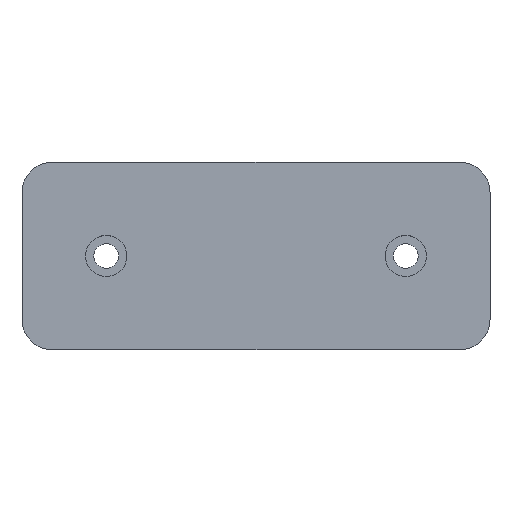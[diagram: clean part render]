
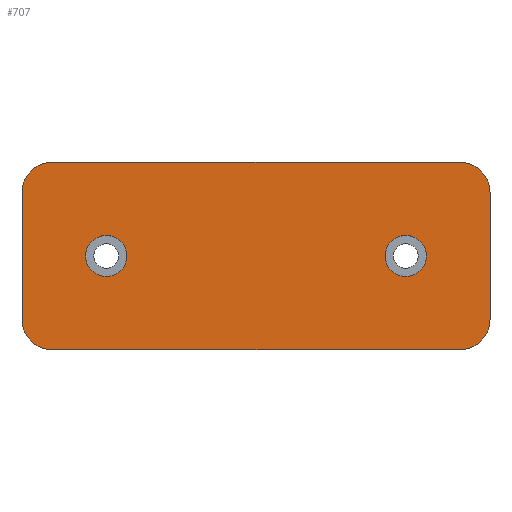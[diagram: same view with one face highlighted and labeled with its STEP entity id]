
A CAD part, top view. The second image highlights one B-rep face of the part: STEP entity #707.
In plain terms, the highlighted planar face has unit normal (0, 0, 1).
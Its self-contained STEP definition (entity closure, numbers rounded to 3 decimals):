
#10 = ORIENTED_EDGE ( 'NONE', *, *, #569, .F. ) ;
#12 = DIRECTION ( 'NONE',  ( 0., 0., 1. ) ) ;
#13 = VERTEX_POINT ( 'NONE', #605 ) ;
#15 = EDGE_CURVE ( 'NONE', #186, #703, #337, .T. ) ;
#26 = ORIENTED_EDGE ( 'NONE', *, *, #374, .T. ) ;
#34 = EDGE_LOOP ( 'NONE', ( #10, #831 ) ) ;
#59 = VECTOR ( 'NONE', #89, 1000. ) ;
#60 = VERTEX_POINT ( 'NONE', #802 ) ;
#62 = EDGE_LOOP ( 'NONE', ( #223, #95 ) ) ;
#65 = CARTESIAN_POINT ( 'NONE',  ( 54.5, 17., 12.1 ) ) ;
#70 = DIRECTION ( 'NONE',  ( 1., 0., 0. ) ) ;
#75 = EDGE_CURVE ( 'NONE', #651, #129, #438, .T. ) ;
#84 = CARTESIAN_POINT ( 'NONE',  ( -40., 0., 12.1 ) ) ;
#89 = DIRECTION ( 'NONE',  ( 0., 1., 0. ) ) ;
#90 = DIRECTION ( 'NONE',  ( 1., 0., 0. ) ) ;
#95 = ORIENTED_EDGE ( 'NONE', *, *, #484, .F. ) ;
#96 = CARTESIAN_POINT ( 'NONE',  ( 54.5, -17., 12.1 ) ) ;
#97 = ORIENTED_EDGE ( 'NONE', *, *, #621, .T. ) ;
#113 = AXIS2_PLACEMENT_3D ( 'NONE', #375, #755, #515 ) ;
#129 = VERTEX_POINT ( 'NONE', #788 ) ;
#135 = DIRECTION ( 'NONE',  ( 1., 0., 0. ) ) ;
#158 = DIRECTION ( 'NONE',  ( 0., 0., 1. ) ) ;
#166 = ORIENTED_EDGE ( 'NONE', *, *, #431, .T. ) ;
#183 = CIRCLE ( 'NONE', #279, 5.5 ) ;
#186 = VERTEX_POINT ( 'NONE', #567 ) ;
#196 = ORIENTED_EDGE ( 'NONE', *, *, #510, .T. ) ;
#213 = VECTOR ( 'NONE', #228, 1000. ) ;
#223 = ORIENTED_EDGE ( 'NONE', *, *, #15, .F. ) ;
#228 = DIRECTION ( 'NONE',  ( 1., 0., 0. ) ) ;
#232 = VERTEX_POINT ( 'NONE', #499 ) ;
#233 = AXIS2_PLACEMENT_3D ( 'NONE', #370, #504, #809 ) ;
#238 = CARTESIAN_POINT ( 'NONE',  ( 40., 0., 12.1 ) ) ;
#246 = EDGE_CURVE ( 'NONE', #13, #566, #183, .T. ) ;
#255 = VECTOR ( 'NONE', #365, 1000. ) ;
#268 = EDGE_CURVE ( 'NONE', #722, #704, #799, .T. ) ;
#272 = DIRECTION ( 'NONE',  ( 0., 0., 1. ) ) ;
#279 = AXIS2_PLACEMENT_3D ( 'NONE', #238, #489, #741 ) ;
#293 = EDGE_LOOP ( 'NONE', ( #26, #416, #196, #792, #476, #323, #97, #166 ) ) ;
#295 = CARTESIAN_POINT ( 'NONE',  ( -62.5, -17., 12.1 ) ) ;
#306 = CARTESIAN_POINT ( 'NONE',  ( 45.5, 0., 12.1 ) ) ;
#323 = ORIENTED_EDGE ( 'NONE', *, *, #75, .T. ) ;
#332 = CARTESIAN_POINT ( 'NONE',  ( 54.5, 17., 12.1 ) ) ;
#334 = FACE_BOUND ( 'NONE', #34, .T. ) ;
#335 = AXIS2_PLACEMENT_3D ( 'NONE', #84, #351, #728 ) ;
#337 = CIRCLE ( 'NONE', #335, 5.5 ) ;
#344 = CIRCLE ( 'NONE', #233, 8. ) ;
#347 = CIRCLE ( 'NONE', #668, 8. ) ;
#351 = DIRECTION ( 'NONE',  ( 0., 0., 1. ) ) ;
#357 = CARTESIAN_POINT ( 'NONE',  ( 54.5, -25., 12.1 ) ) ;
#365 = DIRECTION ( 'NONE',  ( 0., -1., 0. ) ) ;
#368 = CARTESIAN_POINT ( 'NONE',  ( 62.5, 17., 12.1 ) ) ;
#370 = CARTESIAN_POINT ( 'NONE',  ( -54.5, 17., 12.1 ) ) ;
#374 = EDGE_CURVE ( 'NONE', #458, #611, #347, .T. ) ;
#375 = CARTESIAN_POINT ( 'NONE',  ( 40., 0., 12.1 ) ) ;
#385 = AXIS2_PLACEMENT_3D ( 'NONE', #560, #680, #619 ) ;
#403 = CIRCLE ( 'NONE', #602, 8. ) ;
#409 = PLANE ( 'NONE',  #681 ) ;
#416 = ORIENTED_EDGE ( 'NONE', *, *, #528, .T. ) ;
#418 = DIRECTION ( 'NONE',  ( 0., 0., 1. ) ) ;
#419 = CARTESIAN_POINT ( 'NONE',  ( 62.5, -17., 12.1 ) ) ;
#431 = EDGE_CURVE ( 'NONE', #232, #458, #709, .T. ) ;
#438 = LINE ( 'NONE', #357, #213 ) ;
#458 = VERTEX_POINT ( 'NONE', #368 ) ;
#465 = CARTESIAN_POINT ( 'NONE',  ( -62.5, -17., 12.1 ) ) ;
#476 = ORIENTED_EDGE ( 'NONE', *, *, #505, .T. ) ;
#483 = CARTESIAN_POINT ( 'NONE',  ( -40., 0., 12.1 ) ) ;
#484 = EDGE_CURVE ( 'NONE', #703, #186, #531, .T. ) ;
#486 = FACE_OUTER_BOUND ( 'NONE', #293, .T. ) ;
#487 = DIRECTION ( 'NONE',  ( 1., 0., 0. ) ) ;
#489 = DIRECTION ( 'NONE',  ( 0., 0., 1. ) ) ;
#499 = CARTESIAN_POINT ( 'NONE',  ( 62.5, -17., 12.1 ) ) ;
#504 = DIRECTION ( 'NONE',  ( 0., 0., 1. ) ) ;
#505 = EDGE_CURVE ( 'NONE', #704, #651, #769, .T. ) ;
#507 = CARTESIAN_POINT ( 'NONE',  ( -54.5, -25., 12.1 ) ) ;
#510 = EDGE_CURVE ( 'NONE', #60, #722, #344, .T. ) ;
#515 = DIRECTION ( 'NONE',  ( 1., 0., 0. ) ) ;
#528 = EDGE_CURVE ( 'NONE', #611, #60, #550, .T. ) ;
#531 = CIRCLE ( 'NONE', #718, 5.5 ) ;
#550 = LINE ( 'NONE', #571, #640 ) ;
#560 = CARTESIAN_POINT ( 'NONE',  ( -54.5, -17., 12.1 ) ) ;
#566 = VERTEX_POINT ( 'NONE', #306 ) ;
#567 = CARTESIAN_POINT ( 'NONE',  ( -34.5, 0., 12.1 ) ) ;
#569 = EDGE_CURVE ( 'NONE', #566, #13, #726, .T. ) ;
#571 = CARTESIAN_POINT ( 'NONE',  ( 54.5, 25., 12.1 ) ) ;
#575 = FACE_BOUND ( 'NONE', #62, .T. ) ;
#602 = AXIS2_PLACEMENT_3D ( 'NONE', #96, #418, #487 ) ;
#605 = CARTESIAN_POINT ( 'NONE',  ( 34.5, 0., 12.1 ) ) ;
#607 = CARTESIAN_POINT ( 'NONE',  ( -45.5, 0., 12.1 ) ) ;
#611 = VERTEX_POINT ( 'NONE', #833 ) ;
#619 = DIRECTION ( 'NONE',  ( -1., 0., 0. ) ) ;
#621 = EDGE_CURVE ( 'NONE', #129, #232, #403, .T. ) ;
#639 = DIRECTION ( 'NONE',  ( -1., 0., 0. ) ) ;
#640 = VECTOR ( 'NONE', #639, 1000. ) ;
#651 = VERTEX_POINT ( 'NONE', #507 ) ;
#668 = AXIS2_PLACEMENT_3D ( 'NONE', #65, #272, #70 ) ;
#680 = DIRECTION ( 'NONE',  ( 0., 0., 1. ) ) ;
#681 = AXIS2_PLACEMENT_3D ( 'NONE', #332, #12, #135 ) ;
#703 = VERTEX_POINT ( 'NONE', #607 ) ;
#704 = VERTEX_POINT ( 'NONE', #465 ) ;
#707 = ADVANCED_FACE ( 'NONE', ( #334, #575, #486 ), #409, .T. ) ;
#709 = LINE ( 'NONE', #419, #59 ) ;
#718 = AXIS2_PLACEMENT_3D ( 'NONE', #483, #158, #90 ) ;
#722 = VERTEX_POINT ( 'NONE', #782 ) ;
#726 = CIRCLE ( 'NONE', #113, 5.5 ) ;
#728 = DIRECTION ( 'NONE',  ( 1., 0., 0. ) ) ;
#741 = DIRECTION ( 'NONE',  ( 1., 0., 0. ) ) ;
#755 = DIRECTION ( 'NONE',  ( 0., 0., 1. ) ) ;
#769 = CIRCLE ( 'NONE', #385, 8. ) ;
#782 = CARTESIAN_POINT ( 'NONE',  ( -62.5, 17., 12.1 ) ) ;
#788 = CARTESIAN_POINT ( 'NONE',  ( 54.5, -25., 12.1 ) ) ;
#792 = ORIENTED_EDGE ( 'NONE', *, *, #268, .T. ) ;
#799 = LINE ( 'NONE', #295, #255 ) ;
#802 = CARTESIAN_POINT ( 'NONE',  ( -54.5, 25., 12.1 ) ) ;
#809 = DIRECTION ( 'NONE',  ( 1., 0., 0. ) ) ;
#831 = ORIENTED_EDGE ( 'NONE', *, *, #246, .F. ) ;
#833 = CARTESIAN_POINT ( 'NONE',  ( 54.5, 25., 12.1 ) ) ;
